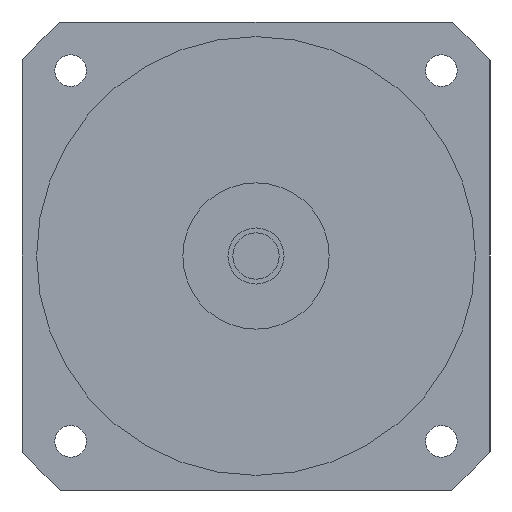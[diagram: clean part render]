
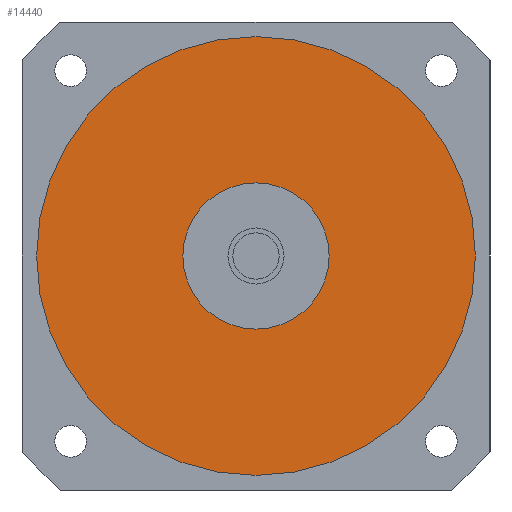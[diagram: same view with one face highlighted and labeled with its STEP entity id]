
A CAD part, left-side view. The second image highlights one B-rep face of the part: STEP entity #14440.
In plain terms, the highlighted planar face has unit normal (-1, 0, 0) as drawn and (0, 0, -1) by its records, which use the part's own axes.
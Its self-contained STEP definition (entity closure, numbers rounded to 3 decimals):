
#8930=CARTESIAN_POINT('',(30.,0.,-43.9));
#8940=VERTEX_POINT('',#8930);
#8970=CARTESIAN_POINT('',(0.,0.,
-43.9));
#8980=DIRECTION('',(0.,0.,1.));
#8990=DIRECTION('',(0.,1.,0.));
#9000=AXIS2_PLACEMENT_3D('',#8970,#8980,#8990);
#9010=CIRCLE('',#9000,30.);
#9020=CARTESIAN_POINT('',(0.,30.,-43.9));
#9030=VERTEX_POINT('',#9020);
#9040=EDGE_CURVE('',#8940,#9030,#9010,.T.);
#9060=CARTESIAN_POINT('',(-30.,0.,-43.9));
#9070=VERTEX_POINT('',#9060);
#9080=EDGE_CURVE('',#9030,#9070,#9010,.T.);
#13990=CARTESIAN_POINT('',(90.,0.,-43.9));
#14000=VERTEX_POINT('',#13990);
#14090=CARTESIAN_POINT('',(-90.,0.,-43.9));
#14100=VERTEX_POINT('',#14090);
#14130=CARTESIAN_POINT('',(0.,0.,
-43.9));
#14140=DIRECTION('',(0.,0.,1.));
#14150=DIRECTION('',(0.,1.,0.));
#14160=AXIS2_PLACEMENT_3D('',#14130,#14140,#14150);
#14170=CIRCLE('',#14160,90.);
#14180=CARTESIAN_POINT('',(0.,90.,-43.9));
#14190=VERTEX_POINT('',#14180);
#14200=EDGE_CURVE('',#14190,#14100,#14170,.T.);
#14220=EDGE_CURVE('',#14000,#14190,#14170,.T.);
#14270=CARTESIAN_POINT('',(0.,0.,
-43.9));
#14280=DIRECTION('',(0.,0.,1.));
#14290=DIRECTION('',(-1.,0.,0.));
#14300=AXIS2_PLACEMENT_3D('',#14270,#14280,#14290);
#14310=PLANE('',#14300);
#14320=ORIENTED_EDGE('',*,*,#14200,.F.);
#14330=EDGE_CURVE('',#14100,#14000,#14170,.T.);
#14340=ORIENTED_EDGE('',*,*,#14330,.F.);
#14350=ORIENTED_EDGE('',*,*,#14220,.F.);
#14360=EDGE_LOOP('',(#14350,#14340,#14320));
#14370=FACE_OUTER_BOUND('',#14360,.T.);
#14380=EDGE_CURVE('',#9070,#8940,#9010,.T.);
#14390=ORIENTED_EDGE('',*,*,#14380,.T.);
#14400=ORIENTED_EDGE('',*,*,#9080,.T.);
#14410=ORIENTED_EDGE('',*,*,#9040,.T.);
#14420=EDGE_LOOP('',(#14410,#14400,#14390));
#14430=FACE_BOUND('',#14420,.T.);
#14440=ADVANCED_FACE('',(#14370,#14430),#14310,.F.);
